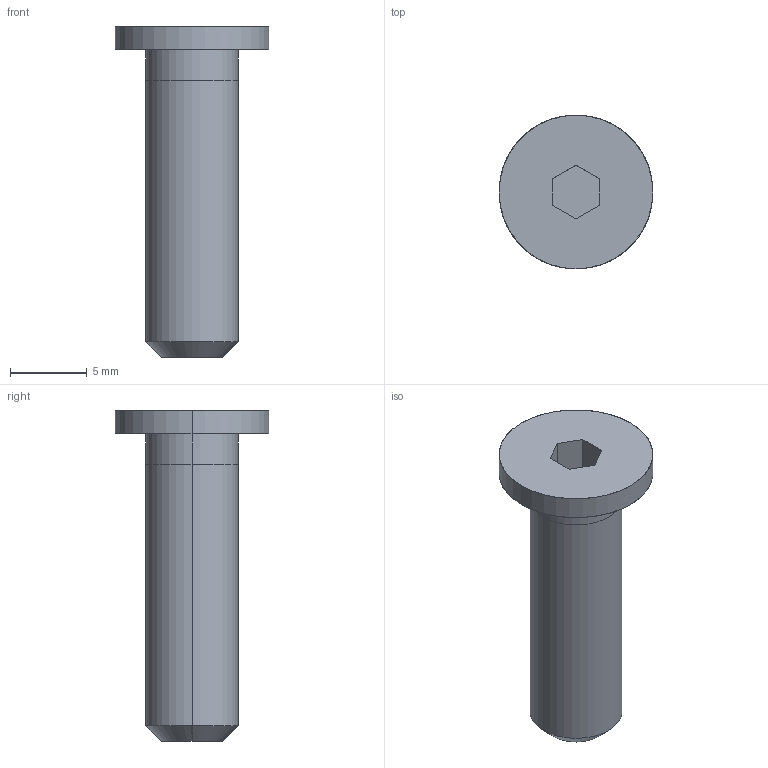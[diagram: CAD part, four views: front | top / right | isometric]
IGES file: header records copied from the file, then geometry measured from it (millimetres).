
Global section: file name: E:\UnigraphicsGraphicData\MISUMI_PRESS-PARTS\IGES\3d_cbss6-20_03506_r00.igs; native system: NX V5.0; preprocessor: UGS NX IGES V5.0; author: MISUMI; date: 20110105.160202; units: millimetre
Bounding box: 10 x 10 x 21.5 mm (x, y, z)
Surface area: 610.9 mm2 (no closed solid volume)
Topology: 0 solids, 0 shells, 18 faces, 100 edges, 100 vertices
Faces by surface type: bspline 18
